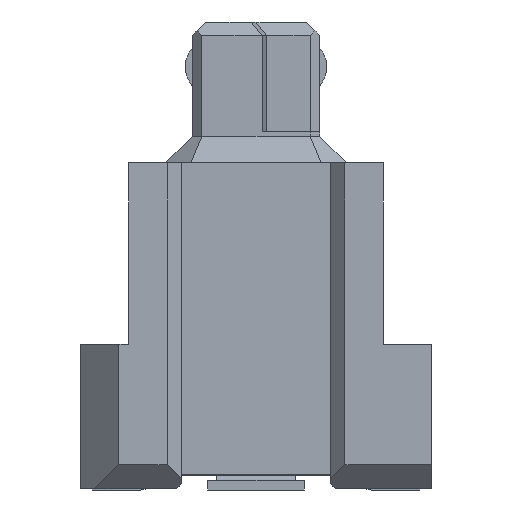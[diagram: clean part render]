
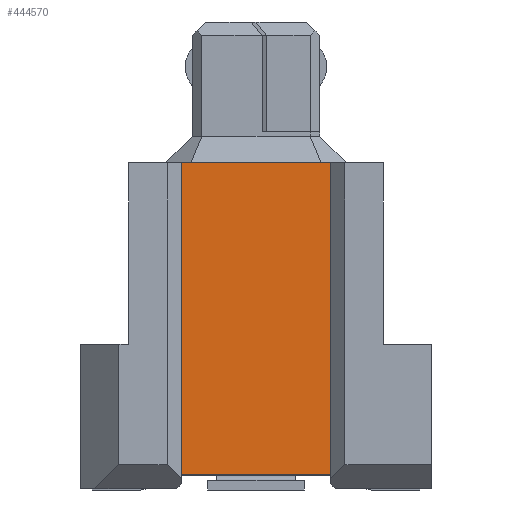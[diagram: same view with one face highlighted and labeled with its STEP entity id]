
A CAD part, left-side view. The second image highlights one B-rep face of the part: STEP entity #444570.
In plain terms, the highlighted planar face has unit normal (-1, 0, 0).
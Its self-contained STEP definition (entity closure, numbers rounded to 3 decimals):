
#22690=CARTESIAN_POINT('',(9.968,-5.06,1.1));
#22700=VERTEX_POINT('',#22690);
#22730=CARTESIAN_POINT('',(9.968,-5.06,0.));
#22740=DIRECTION('',(0.,0.,-1.));
#22750=VECTOR('',#22740,1.);
#22760=LINE('',#22730,#22750);
#22770=CARTESIAN_POINT('',(9.968,-5.06,4.2));
#22780=VERTEX_POINT('',#22770);
#22790=EDGE_CURVE('',#22780,#22700,#22760,.T.);
#439350=CARTESIAN_POINT('',(9.968,1.41,4.2));
#439360=VERTEX_POINT('',#439350);
#439390=CARTESIAN_POINT('',(9.968,1.41,0.));
#439400=DIRECTION('',(0.,0.,1.));
#439410=VECTOR('',#439400,1.);
#439420=LINE('',#439390,#439410);
#439430=CARTESIAN_POINT('',(9.968,1.41,1.1));
#439440=VERTEX_POINT('',#439430);
#439450=EDGE_CURVE('',#439440,#439360,#439420,.T.);
#443150=CARTESIAN_POINT('',(9.968,0.,4.2));
#443160=DIRECTION('',(0.,-1.,0.));
#443170=VECTOR('',#443160,1.);
#443180=LINE('',#443150,#443170);
#443190=EDGE_CURVE('',#439360,#22780,#443180,.T.);
#444370=CARTESIAN_POINT('',(9.968,0.,1.1));
#444380=DIRECTION('',(0.,-1.,0.));
#444390=VECTOR('',#444380,1.);
#444400=LINE('',#444370,#444390);
#444410=EDGE_CURVE('',#439440,#22700,#444400,.T.);
#444460=CARTESIAN_POINT('',(9.968,-5.36,5.3));
#444470=DIRECTION('',(-1.,0.,0.));
#444480=DIRECTION('',(0.,1.,0.));
#444490=AXIS2_PLACEMENT_3D('',#444460,#444470,#444480);
#444500=PLANE('',#444490);
#444510=ORIENTED_EDGE('',*,*,#444410,.T.);
#444520=ORIENTED_EDGE('',*,*,#439450,.F.);
#444530=ORIENTED_EDGE('',*,*,#443190,.F.);
#444540=ORIENTED_EDGE('',*,*,#22790,.F.);
#444550=EDGE_LOOP('',(#444540,#444530,#444520,#444510));
#444560=FACE_OUTER_BOUND('',#444550,.T.);
#444570=ADVANCED_FACE('',(#444560),#444500,.T.);
